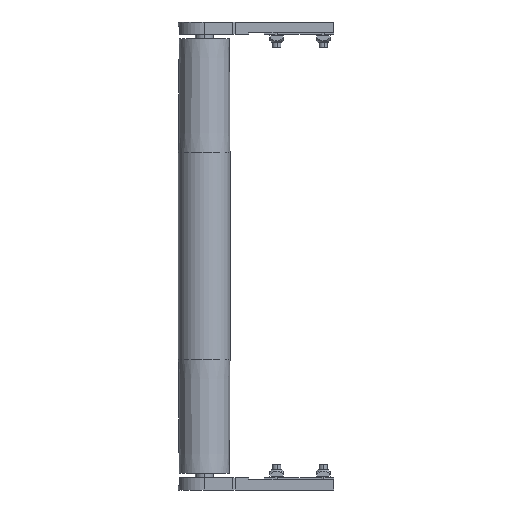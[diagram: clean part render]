
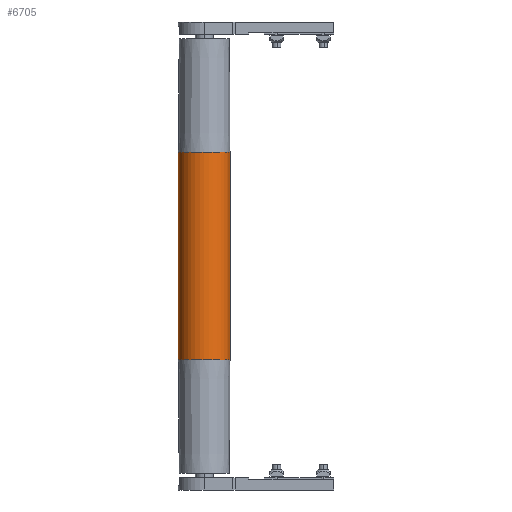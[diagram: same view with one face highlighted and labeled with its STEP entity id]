
A CAD part, front view. The second image highlights one B-rep face of the part: STEP entity #6705.
In plain terms, the highlighted cylindrical face has radius 24.9 mm (diameter 49.8 mm), a partial arc.
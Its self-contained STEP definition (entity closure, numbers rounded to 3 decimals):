
#372 = DIRECTION ( 'NONE',  ( 0., 0., 1. ) ) ;
#376 = CARTESIAN_POINT ( 'NONE',  ( -24.9, 0., 210. ) ) ;
#840 = FACE_OUTER_BOUND ( 'NONE', #2751, .T. ) ;
#849 = CYLINDRICAL_SURFACE ( 'NONE', #6544, 24.9 ) ;
#1020 = CIRCLE ( 'NONE', #6380, 24.9 ) ;
#1029 = CIRCLE ( 'NONE', #6376, 24.9 ) ;
#1802 = EDGE_CURVE ( 'NONE', #5133, #5134, #6890, .T. ) ;
#1879 = EDGE_CURVE ( 'NONE', #5109, #5112, #8568, .T. ) ;
#2477 = DIRECTION ( 'NONE',  ( 1., 0., 0. ) ) ;
#2479 = DIRECTION ( 'NONE',  ( 0., 0., 1. ) ) ;
#2481 = CARTESIAN_POINT ( 'NONE',  ( 0., 0., 210. ) ) ;
#2721 = ORIENTED_EDGE ( 'NONE', *, *, #1879, .T. ) ;
#2722 = ORIENTED_EDGE ( 'NONE', *, *, #7155, .T. ) ;
#2723 = ORIENTED_EDGE ( 'NONE', *, *, #1802, .F. ) ;
#2728 = ORIENTED_EDGE ( 'NONE', *, *, #7157, .F. ) ;
#2751 = EDGE_LOOP ( 'NONE', ( #2723, #2722, #2721, #2728 ) ) ;
#3495 = CARTESIAN_POINT ( 'NONE',  ( 24.9, 0., -100. ) ) ;
#3498 = CARTESIAN_POINT ( 'NONE',  ( 24.9, 0., 100. ) ) ;
#3519 = CARTESIAN_POINT ( 'NONE',  ( -24.9, 0., -100. ) ) ;
#3520 = CARTESIAN_POINT ( 'NONE',  ( -24.9, 0., 100. ) ) ;
#5109 = VERTEX_POINT ( 'NONE', #3495 ) ;
#5112 = VERTEX_POINT ( 'NONE', #3498 ) ;
#5133 = VERTEX_POINT ( 'NONE', #3519 ) ;
#5134 = VERTEX_POINT ( 'NONE', #3520 ) ;
#6376 = AXIS2_PLACEMENT_3D ( 'NONE', #7413, #7414, #7415 ) ;
#6380 = AXIS2_PLACEMENT_3D ( 'NONE', #7407, #7408, #7409 ) ;
#6544 = AXIS2_PLACEMENT_3D ( 'NONE', #2481, #2479, #2477 ) ;
#6705 = ADVANCED_FACE ( 'NONE', ( #840 ), #849, .T. ) ;
#6890 = LINE ( 'NONE', #376, #6910 ) ;
#6910 = VECTOR ( 'NONE', #372, 1000. ) ;
#7155 = EDGE_CURVE ( 'NONE', #5133, #5109, #1020, .T. ) ;
#7157 = EDGE_CURVE ( 'NONE', #5134, #5112, #1029, .T. ) ;
#7407 = CARTESIAN_POINT ( 'NONE',  ( 0., 0., -100. ) ) ;
#7408 = DIRECTION ( 'NONE',  ( 0., 0., 1. ) ) ;
#7409 = DIRECTION ( 'NONE',  ( 1., 0., 0. ) ) ;
#7413 = CARTESIAN_POINT ( 'NONE',  ( 0., 0., 100. ) ) ;
#7414 = DIRECTION ( 'NONE',  ( 0., 0., 1. ) ) ;
#7415 = DIRECTION ( 'NONE',  ( 1., 0., 0. ) ) ;
#8565 = VECTOR ( 'NONE', #12427, 1000. ) ;
#8568 = LINE ( 'NONE', #12428, #8565 ) ;
#12427 = DIRECTION ( 'NONE',  ( 0., 0., 1. ) ) ;
#12428 = CARTESIAN_POINT ( 'NONE',  ( 24.9, 0., 210. ) ) ;
